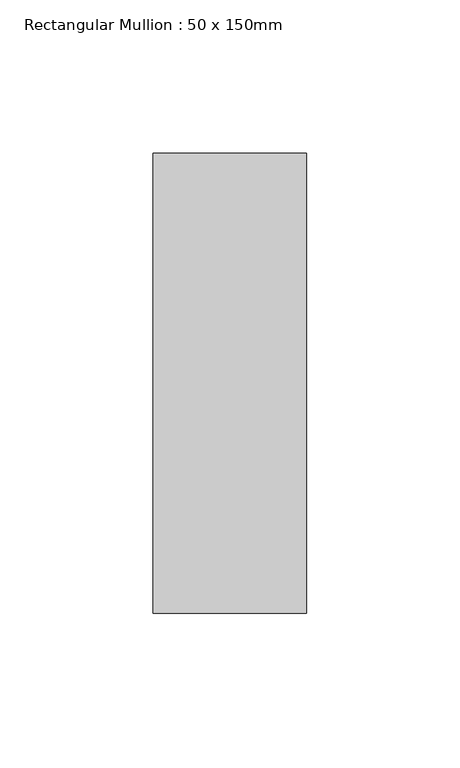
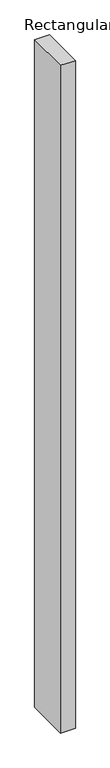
"""IFC4 building model written with IfcOpenShell, lengths in millimetres: member geometry, Rectangular Mullion : 50 x 150mm."""

import ifcopenshell
import ifcopenshell.guid

model = None  # the IFC model being written
_history = None  # IfcOwnerHistory: only IFC2X3 demands one
_inside = {}  # id of a spatial element -> (the spatial element, [elements in it])
_under = {}  # id of a project, library or spatial element -> (it, [spatial elements below it])
_declared = {}  # id of a project -> (the project, [libraries it declares])
_typed = {}  # id of a type object -> (the type object, [elements of that type])
_made_of = {}  # id of a material, layer set ... -> (it, [elements and type objects made of it])


def new_model(schema):
    """Start an empty IFC model of exactly this schema.

    Asked for "IFC4X3", IfcOpenShell would pick the latest addendum, in which some entities
    have other attributes; the version numbers below select the first issue.
    IFC2X3 requires an IfcOwnerHistory on every rooted entity: one is made here for all.
    """
    global model, _history
    if schema == "IFC4X3":
        model = ifcopenshell.file(schema_version=(4, 3, 0, 0))
    else:
        model = ifcopenshell.file(schema=schema)
    _inside.clear()
    _under.clear()
    _declared.clear()
    _typed.clear()
    _made_of.clear()
    _history = None
    if model.schema == "IFC2X3":
        org = make("IfcOrganization", Name="unknown")
        user = make(
            "IfcPersonAndOrganization",
            ThePerson=make("IfcPerson", FamilyName="unknown"),
            TheOrganization=org,
        )
        app = make(
            "IfcApplication",
            ApplicationDeveloper=org,
            Version="unknown",
            ApplicationFullName="unknown",
            ApplicationIdentifier="unknown",
        )
        _history = make(
            "IfcOwnerHistory",
            OwningUser=user,
            OwningApplication=app,
            ChangeAction="ADDED",
            CreationDate=0,
        )
    return model


def make(cls, **values):
    """One entity of the class cls with the attributes given. An attribute that is None is left unset."""
    return model.create_entity(
        cls, **{name: value for name, value in values.items() if value is not None}
    )


def rooted(cls, **values):
    """An entity with a GlobalId (a new one), such as an element, a storey or a relation."""
    return make(cls, GlobalId=ifcopenshell.guid.new(), OwnerHistory=_history, **values)


def si_unit(unit_type, name, prefix=None):
    """IfcSIUnit, for example si_unit("LENGTHUNIT", "METRE", prefix="MILLI")."""
    return make("IfcSIUnit", UnitType=unit_type, Prefix=prefix, Name=name)


def assignment(units):
    """IfcUnitAssignment: the units of a project."""
    return None if units is None else make("IfcUnitAssignment", Units=units)


def point(xyz):
    """IfcCartesianPoint."""
    return None if xyz is None else make("IfcCartesianPoint", Coordinates=xyz)


def direction(xyz):
    """IfcDirection."""
    return None if xyz is None else make("IfcDirection", DirectionRatios=xyz)


def frame(location, z_axis=None, x_axis=None):
    """IfcAxis2Placement3D, a coordinate frame: its origin and axes. An axis left out is left unset."""
    return make(
        "IfcAxis2Placement3D",
        Location=point(location),
        Axis=direction(z_axis),
        RefDirection=direction(x_axis),
    )


def origin():
    """The frame at (0, 0, 0) with its axes left unset."""
    return frame((0.0, 0.0, 0.0))


def place(relative_to, where):
    """IfcLocalPlacement: puts the frame where relative to a parent placement (None: the world)."""
    return make(
        "IfcLocalPlacement", PlacementRelTo=relative_to, RelativePlacement=where
    )


def context(
    kind, dimensions, precision=None, world=None, true_north=None, identifier=None
):
    """IfcGeometricRepresentationContext, for example the 3D "Model" context."""
    return make(
        "IfcGeometricRepresentationContext",
        ContextIdentifier=identifier,
        ContextType=kind,
        CoordinateSpaceDimension=dimensions,
        Precision=precision,
        WorldCoordinateSystem=world,
        TrueNorth=true_north,
    )


def project(units=None, contexts=None):
    """IfcProject with its units and contexts."""
    return rooted(
        "IfcProject",
        Name="project",
        RepresentationContexts=contexts,
        UnitsInContext=assignment(units),
    )


def spatial(cls, under=None, at=None, **own):
    """A site, building, storey or space (cls), placed at a placement, below another one or the project."""
    s = rooted(cls, ObjectPlacement=at, **own)
    if under is not None:
        _under.setdefault(under.id(), (under, []))[1].append(s)
    return s


def polyline(points):
    """IfcPolyline through the points."""
    return make("IfcPolyline", Points=[point(p) for p in points])


def outline(outer, holes=None, kind="AREA"):
    """IfcArbitraryClosedProfileDef: a profile drawn as a closed curve; with holes, ...WithVoids."""
    if holes is None:
        return make("IfcArbitraryClosedProfileDef", ProfileType=kind, OuterCurve=outer)
    return make(
        "IfcArbitraryProfileDefWithVoids",
        ProfileType=kind,
        OuterCurve=outer,
        InnerCurves=holes,
    )


def extrude(swept, where, along, depth):
    """IfcExtrudedAreaSolid: the profile swept, set in the frame where, extruded along a direction by depth."""
    return make(
        "IfcExtrudedAreaSolid",
        SweptArea=swept,
        Position=where,
        ExtrudedDirection=direction(along),
        Depth=depth,
    )


def shape(context_of_items, identifier, shape_type, items):
    """IfcShapeRepresentation: the items that make up one representation, for example the "Body"."""
    return make(
        "IfcShapeRepresentation",
        ContextOfItems=context_of_items,
        RepresentationIdentifier=identifier,
        RepresentationType=shape_type,
        Items=items,
    )


def source(mapping_origin, context_of_items, identifier, shape_type, items):
    """IfcRepresentationMap: a shape defined once, which mapped items show again and again."""
    return make(
        "IfcRepresentationMap",
        MappingOrigin=mapping_origin,
        MappedRepresentation=shape(context_of_items, identifier, shape_type, items),
    )


def transform(
    local_origin,
    x_axis=None,
    y_axis=None,
    z_axis=None,
    scale=None,
    scale2=None,
    scale3=None,
    uniform=True,
):
    """IfcCartesianTransformationOperator3D, or its non-uniform kind. x_axis, y_axis, z_axis: its Axis1, 2, 3."""
    if uniform:
        return make(
            "IfcCartesianTransformationOperator3D",
            Axis1=direction(x_axis),
            Axis2=direction(y_axis),
            LocalOrigin=point(local_origin),
            Scale=scale,
            Axis3=direction(z_axis),
        )
    return make(
        "IfcCartesianTransformationOperator3DnonUniform",
        Axis1=direction(x_axis),
        Axis2=direction(y_axis),
        LocalOrigin=point(local_origin),
        Scale=scale,
        Axis3=direction(z_axis),
        Scale2=scale2,
        Scale3=scale3,
    )


def mapped(mapping_source, mapping_target):
    """IfcMappedItem: shows the shape of a source again, moved by a transform."""
    return make(
        "IfcMappedItem", MappingSource=mapping_source, MappingTarget=mapping_target
    )


def made_of(thing, what):
    """Note that an element or type object is made of a material, layer set ...; save() writes the relation."""
    if what is not None:
        _made_of.setdefault(what.id(), (what, []))[1].append(thing)
    return thing


def element(
    cls,
    number,
    at=None,
    inside=None,
    cuts=None,
    type_object=None,
    material=None,
    context=None,
    identifier="Body",
    shape_type=None,
    held_by="IfcProductDefinitionShape",
    body=None,
    shapes=None,
    **own,
):
    """One element of the class cls, such as IfcWall. Its Tag is "e" and its number.

    at: its placement. inside: the storey or other place that contains it. cuts: it is an
    opening in that element (IfcRelVoidsElement). A single representation is given by context,
    identifier, shape_type and body (its items); several are given by shapes. held_by: the class
    of the entity that holds the representations. save() writes the other relations.
    """
    e = rooted(cls, Tag="e%d" % number, ObjectPlacement=at, **own)
    if body is not None:
        shapes = [shape(context, identifier, shape_type, body)]
    if shapes is not None:
        e.Representation = make(held_by, Representations=shapes)
    if inside is not None:
        _inside.setdefault(inside.id(), (inside, []))[1].append(e)
    if cuts is not None:
        rooted(
            "IfcRelVoidsElement", RelatingBuildingElement=cuts, RelatedOpeningElement=e
        )
    if type_object is not None:
        _typed.setdefault(type_object.id(), (type_object, []))[1].append(e)
    return made_of(e, material)


def aggregate(whole, parts):
    """IfcRelAggregates: a whole, such as a stair, and the parts it consists of."""
    return rooted("IfcRelAggregates", RelatingObject=whole, RelatedObjects=parts)


def save(model, path):
    """Write the relations noted so far, then the file.

    IfcRelAggregates (storeys below a building ...), IfcRelContainedInSpatialStructure (elements
    in a storey), IfcRelDefinesByType, IfcRelAssociatesMaterial and IfcRelDeclares: one each for
    every whole, place, type object, material and project.
    """
    for whole, parts in _under.values():
        aggregate(whole, parts)
    for where, things in _inside.values():
        rooted(
            "IfcRelContainedInSpatialStructure",
            RelatedElements=things,
            RelatingStructure=where,
        )
    for kind, things in _typed.values():
        rooted("IfcRelDefinesByType", RelatedObjects=things, RelatingType=kind)
    for what, things in _made_of.values():
        rooted("IfcRelAssociatesMaterial", RelatedObjects=things, RelatingMaterial=what)
    for by, libraries in _declared.values():
        rooted("IfcRelDeclares", RelatingContext=by, RelatedDefinitions=libraries)
    model.write(path)


def rectangular_mullion_50_x_150mm_e77f4dab(model_context):
    return source(origin(), model_context, "Body", "SweptSolid", [
        extrude(outline(polyline([(25.0, 75.0), (25.0, -75.0), (-25.0, -75.0), (-25.0, 75.0), (25.0, 75.0)])), frame((0.0, 0.0, -2371.545976), z_axis=(0.0, 0.0, 1.0), x_axis=(1.0, 0.0, 0.0)), (0.0, 0.0, 1.0), 2371.545976),
    ])


if __name__ == "__main__":
    model = new_model("IFC4")
    model_context = context("Model", 3, world=origin())
    ifc_project = project(units=[si_unit("LENGTHUNIT", "METRE", prefix="MILLI")], contexts=[model_context])
    site = spatial("IfcSite", under=ifc_project)
    building = spatial("IfcBuilding", under=site)
    placement = place(None, origin())
    rectangular_mullion_50_x_150mm_shape = rectangular_mullion_50_x_150mm_e77f4dab(model_context)
    element("IfcMember", 1, ObjectType="Rectangular Mullion : 50 x 150mm", at=placement, inside=building, context=model_context, shape_type="MappedRepresentation", body=[
        mapped(rectangular_mullion_50_x_150mm_shape, transform((0.0, 0.0, 0.0), x_axis=(1.0, 0.0, 0.0), y_axis=(0.0, 1.0, 0.0), z_axis=(0.0, 0.0, 1.0))),
    ])
    save(model, "model.ifc")
